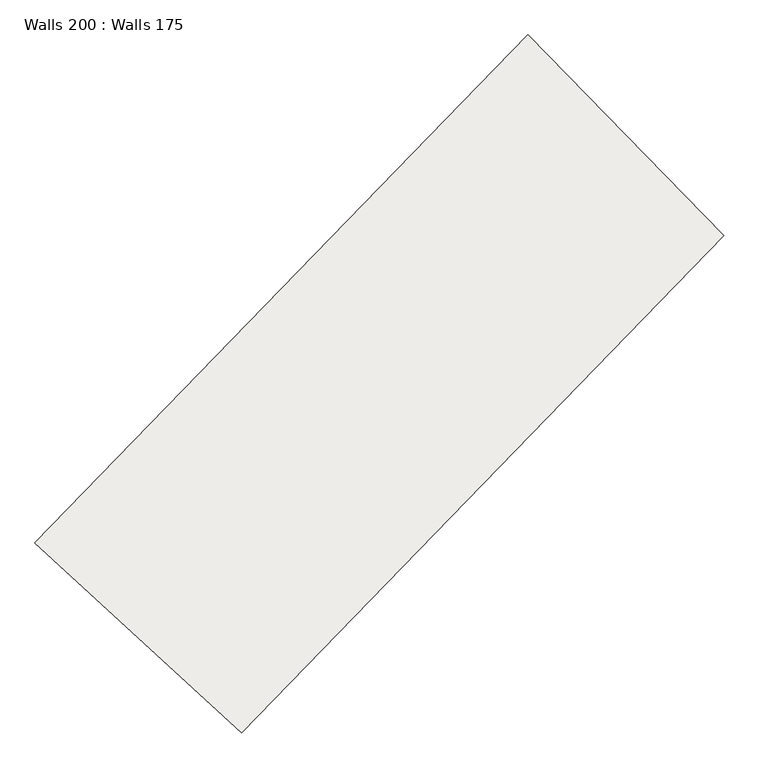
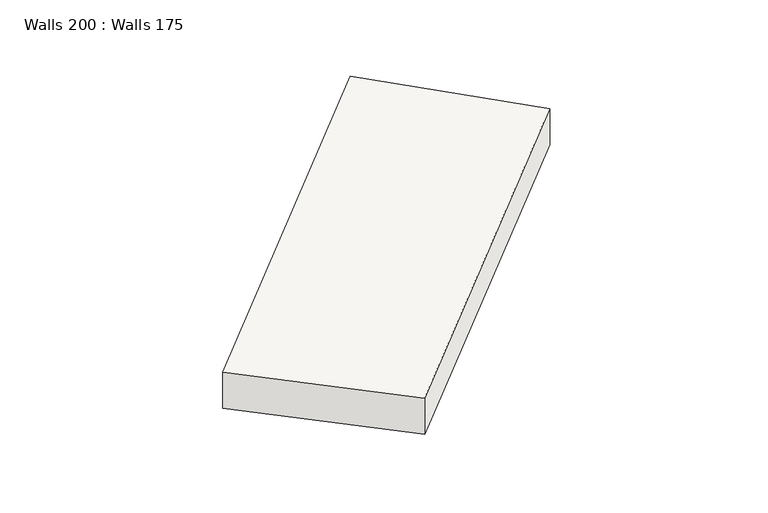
"""IFC4 building model written with IfcOpenShell, lengths in millimetres: slab geometry, Walls 200 : Walls 175."""

from ifc_helpers import new_model, si_unit, frame, origin, place, context, project, spatial, source, transform, mapped, element, save
from ifc_brep_helpers import plane_surface, spline_curve, spline_surface, advanced_brep


def walls_200_walls_175_37d0fbaa(model_context):
    return source(origin(), model_context, "Body", "AdvancedBrep", [
        advanced_brep(
        [(232111.6893764, 139396.3768789, 642270.0), (235058.6604652, 136691.6844007, 642270.0), (235058.6604652, 136691.6844007, 643120.0), (232111.6893764, 139396.3768789, 643120.0), (239148.6472945, 146646.1930829, 642390.0), (239148.6472945, 146646.1930829, 643240.0), (241939.9334737, 143781.106441, 643240.0), (241939.9334737, 143781.106441, 642390.0)],
        [
            (0, 1),
            (1, 2),
            (2, 3),
            (3, 0),
            (4, 5),
            (5, 6),
            (6, 7),
            (7, 4),
            (5, 3, spline_curve(3, [(239148.6472945, 146646.1930829, 643240.0), (236736.074558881, 144295.764709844, 643200.000000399), (234389.200721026, 141877.901171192, 643159.999999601), (232111.6893764, 139396.3768789, 643120.0)], [4, 4], [0.0, 32.78709902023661])),
            (2, 6, spline_curve(3, [(235058.6604652, 136691.6844007, 643120.0), (237285.784391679, 139118.307713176, 643159.999999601), (239580.736241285, 141482.678695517, 643200.000000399), (241939.9334737, 143781.106441, 643240.0)], [4, 4], [0.0, 32.78709902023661])),
            (7, 1, spline_curve(3, [(241939.9334737, 143781.106441, 642390.0), (239580.736241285, 141482.678695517, 642350.000000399), (237285.784391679, 139118.307713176, 642309.999999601), (235058.6604652, 136691.6844007, 642270.0)], [4, 4], [0.0, 32.78709902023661])),
            (0, 4, spline_curve(3, [(232111.6893764, 139396.3768789, 642270.0), (234389.200721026, 141877.901171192, 642309.999999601), (236736.074558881, 144295.764709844, 642350.000000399), (239148.6472945, 146646.1930829, 642390.0)], [4, 4], [0.0, 32.78709902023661])),
        ],
        [
            plane_surface(frame((233585.1749208, 138044.0306398, 642695.0), z_axis=(-0.6761731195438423, -0.7367427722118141, 0.0), x_axis=(0.0, 0.0, 1.0))),
            plane_surface(frame((240544.2903841, 145213.649762, 642815.0), z_axis=(0.7162716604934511, 0.6978215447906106, 0.0), x_axis=(0.6978215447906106, -0.7162716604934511, 0.0))),
            spline_surface(3, 3, [[(241939.9334737, 143781.106441, 643240.0), (239580.736240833, 141482.678695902, 643200.0), (237285.784391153, 139118.307713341, 643160.0), (235058.6604652, 136691.6844007, 643120.0)], [(241009.504747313, 144736.135321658, 643240.0), (238632.515680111, 142420.374033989, 643200.0), (236320.25650125, 140038.172199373, 643160.0), (234076.336768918, 137593.248560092, 643120.0)], [(240079.076020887, 145691.164202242, 643240.0), (237684.295119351, 143358.069372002, 643200.0), (235354.728611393, 140958.036685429, 643160.0), (233094.013072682, 138494.812719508, 643120.0)], [(239148.6472945, 146646.1930829, 643240.0), (236736.074558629, 144295.764710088, 643200.0), (234389.20072149, 141877.901171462, 643160.0), (232111.6893764, 139396.3768789, 643120.0)]], [4, 4], [4, 4], [0.0, 13.123359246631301], [0.0, 32.78709902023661]),
            spline_surface(3, 3, [[(239148.6472945, 146646.1930829, 642390.0), (236736.074558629, 144295.764710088, 642350.0), (234389.20072149, 141877.901171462, 642310.0), (232111.6893764, 139396.3768789, 642270.0)], [(240079.076020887, 145691.164202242, 642390.0), (237684.295119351, 143358.069372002, 642350.0), (235354.728611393, 140958.036685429, 642310.0), (233094.013072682, 138494.812719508, 642270.0)], [(241009.504747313, 144736.135321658, 642390.0), (238632.515680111, 142420.374033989, 642350.0), (236320.25650125, 140038.172199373, 642310.0), (234076.336768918, 137593.248560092, 642270.0)], [(241939.9334737, 143781.106441, 642390.0), (239580.736240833, 141482.678695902, 642350.0), (237285.784391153, 139118.307713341, 642310.0), (235058.6604652, 136691.6844007, 642270.0)]], [4, 4], [4, 4], [0.0, 13.123359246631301], [0.0, 32.78709902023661]),
            spline_surface(3, 3, [[(239148.6472945, 146646.1930829, 643240.0), (236736.074558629, 144295.764710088, 643200.0), (234389.20072149, 141877.901171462, 643160.0), (232111.6893764, 139396.3768789, 643120.0)], [(239148.6472945, 146646.1930829, 642956.666666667), (236736.074558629, 144295.764710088, 642916.666666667), (234389.20072149, 141877.901171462, 642876.666666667), (232111.6893764, 139396.3768789, 642836.666666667)], [(239148.6472945, 146646.1930829, 642673.333333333), (236736.074558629, 144295.764710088, 642633.333333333), (234389.20072149, 141877.901171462, 642593.333333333), (232111.6893764, 139396.3768789, 642553.333333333)], [(239148.6472945, 146646.1930829, 642390.0), (236736.074558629, 144295.764710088, 642350.0), (234389.20072149, 141877.901171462, 642310.0), (232111.6893764, 139396.3768789, 642270.0)]], [4, 4], [4, 4], [0.0, 2.788713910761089], [0.0, 33.15379250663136]),
            spline_surface(3, 3, [[(241939.9334737, 143781.106441, 642390.0), (239580.736240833, 141482.678695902, 642350.0), (237285.784391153, 139118.307713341, 642310.0), (235058.6604652, 136691.6844007, 642270.0)], [(241939.9334737, 143781.106441, 642673.333333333), (239580.736240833, 141482.678695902, 642633.333333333), (237285.784391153, 139118.307713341, 642593.333333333), (235058.6604652, 136691.6844007, 642553.333333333)], [(241939.9334737, 143781.106441, 642956.666666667), (239580.736240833, 141482.678695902, 642916.666666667), (237285.784391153, 139118.307713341, 642876.666666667), (235058.6604652, 136691.6844007, 642836.666666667)], [(241939.9334737, 143781.106441, 643240.0), (239580.736240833, 141482.678695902, 643200.0), (237285.784391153, 139118.307713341, 643160.0), (235058.6604652, 136691.6844007, 643120.0)]], [4, 4], [4, 4], [0.0, 2.788713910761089], [0.0, 32.42040545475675]),
        ],
        [
            (0, [[1, 2, 3, 4]]),
            (1, [[5, 6, 7, 8]]),
            (2, [[-6, 9, -3, 10]]),
            (3, [[-8, 11, -1, 12]]),
            (4, [[-5, -12, -4, -9]]),
            (5, [[-7, -10, -2, -11]]),
        ],
    ),
    ])


if __name__ == "__main__":
    model = new_model("IFC4")
    model_context = context("Model", 3, world=origin())
    ifc_project = project(units=[si_unit("LENGTHUNIT", "METRE", prefix="MILLI")], contexts=[model_context])
    site = spatial("IfcSite", under=ifc_project)
    building = spatial("IfcBuilding", under=site)
    placement = place(None, origin())
    walls_200_walls_175_shape = walls_200_walls_175_37d0fbaa(model_context)
    element("IfcSlab", 1, ObjectType="Walls 200 : Walls 175", at=placement, inside=building, context=model_context, shape_type="MappedRepresentation", body=[
        mapped(walls_200_walls_175_shape, transform((0.0, 0.0, 0.0), x_axis=(1.0, 0.0, 0.0), y_axis=(0.0, 1.0, 0.0), z_axis=(0.0, 0.0, 1.0))),
    ])
    save(model, "model.ifc")
